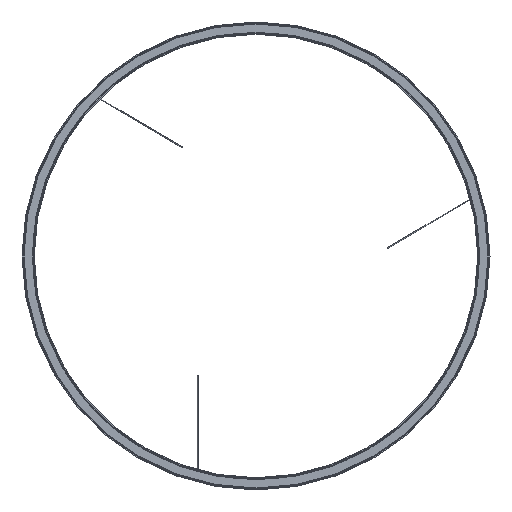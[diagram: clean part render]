
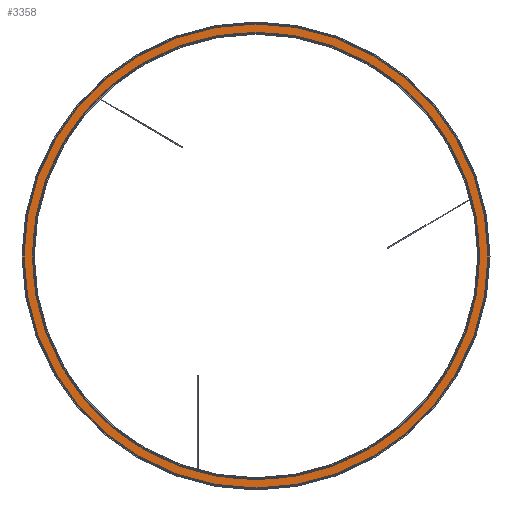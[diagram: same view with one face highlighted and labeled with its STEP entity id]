
A CAD part, top view. The second image highlights one B-rep face of the part: STEP entity #3358.
In plain terms, the highlighted planar face has unit normal (0, 0, 1).
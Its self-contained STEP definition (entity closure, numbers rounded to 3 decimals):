
#342=PLANE('',#5552);
#1017=ORIENTED_EDGE('',*,*,#1454,.T.);
#1018=ORIENTED_EDGE('',*,*,#1450,.F.);
#1450=EDGE_CURVE('',#1774,#1774,#2065,.T.);
#1454=EDGE_CURVE('',#1778,#1778,#2069,.T.);
#1774=VERTEX_POINT('',#7761);
#1778=VERTEX_POINT('',#7772);
#2065=CIRCLE('',#5546,680.45);
#2069=CIRCLE('',#5553,712.55);
#2495=EDGE_LOOP('',(#1017));
#2496=EDGE_LOOP('',(#1018));
#2960=FACE_BOUND('',#2495,.T.);
#2961=FACE_BOUND('',#2496,.T.);
#3358=ADVANCED_FACE('',(#2960,#2961),#342,.T.);
#5546=AXIS2_PLACEMENT_3D('',#7760,#6570,#6571);
#5552=AXIS2_PLACEMENT_3D('',#7770,#6582,#6583);
#5553=AXIS2_PLACEMENT_3D('',#7771,#6584,#6585);
#6570=DIRECTION('',(0.,0.,1.));
#6571=DIRECTION('',(-1.,0.,0.));
#6582=DIRECTION('',(0.,0.,1.));
#6583=DIRECTION('',(-1.,0.,0.));
#6584=DIRECTION('',(0.,0.,1.));
#6585=DIRECTION('',(-1.,0.,0.));
#7760=CARTESIAN_POINT('',(0.,0.,38.));
#7761=CARTESIAN_POINT('',(-680.45,0.,38.));
#7770=CARTESIAN_POINT('',(-680.45,0.,38.));
#7771=CARTESIAN_POINT('',(0.,0.,38.));
#7772=CARTESIAN_POINT('',(-712.55,0.,38.));
